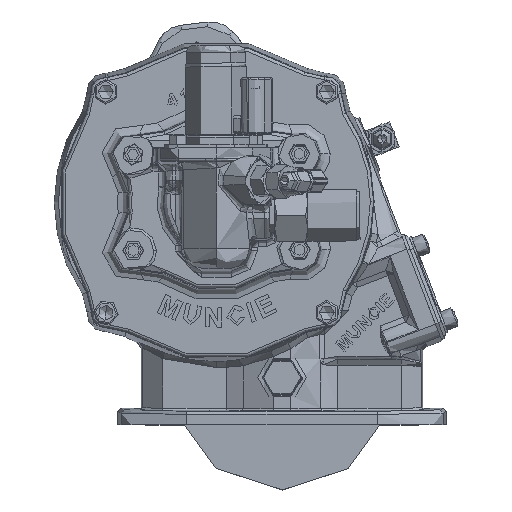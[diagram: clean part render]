
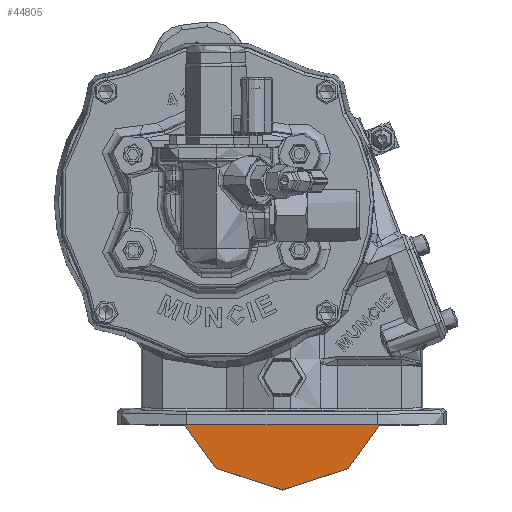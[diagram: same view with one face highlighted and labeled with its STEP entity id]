
A CAD part, top view. The second image highlights one B-rep face of the part: STEP entity #44805.
In plain terms, the highlighted planar face has unit normal (0, 0, 1) as drawn and (0, -1, 0) by its records, which use the part's own axes.
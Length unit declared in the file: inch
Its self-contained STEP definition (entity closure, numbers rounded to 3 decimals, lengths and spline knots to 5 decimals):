
#4716 = VERTEX_POINT ( 'NONE', #72193 ) ;
#4831 = DIRECTION ( 'NONE',  ( 0., 0., 1. ) ) ;
#5052 = AXIS2_PLACEMENT_3D ( 'NONE', #116861, #93906, #105766 ) ;
#6598 = FACE_OUTER_BOUND ( 'NONE', #52448, .T. ) ;
#11804 = AXIS2_PLACEMENT_3D ( 'NONE', #91656, #24061, #56041 ) ;
#24061 = DIRECTION ( 'NONE',  ( 0., 1., 0. ) ) ;
#28630 = EDGE_LOOP ( 'NONE', ( #37834, #36099 ) ) ;
#32270 = AXIS2_PLACEMENT_3D ( 'NONE', #94267, #37844, #51942 ) ;
#35595 = CARTESIAN_POINT ( 'NONE',  ( 0., 0., 0.3595 ) ) ;
#36099 = ORIENTED_EDGE ( 'NONE', *, *, #77864, .T. ) ;
#37834 = ORIENTED_EDGE ( 'NONE', *, *, #102016, .T. ) ;
#37844 = DIRECTION ( 'NONE',  ( 0., 1., 0. ) ) ;
#39676 = AXIS2_PLACEMENT_3D ( 'NONE', #65856, #143065, #122938 ) ;
#44805 = ADVANCED_FACE ( 'NONE', ( #71994, #6598 ), #62323, .F. ) ;
#51942 = DIRECTION ( 'NONE',  ( 0., 0., 1. ) ) ;
#52448 = EDGE_LOOP ( 'NONE', ( #61170, #54970 ) ) ;
#54970 = ORIENTED_EDGE ( 'NONE', *, *, #124185, .F. ) ;
#56041 = DIRECTION ( 'NONE',  ( 0., 0., 1. ) ) ;
#61170 = ORIENTED_EDGE ( 'NONE', *, *, #131223, .F. ) ;
#62323 = PLANE ( 'NONE',  #32270 ) ;
#63364 = CARTESIAN_POINT ( 'NONE',  ( 0., 0., -2.135 ) ) ;
#65759 = CIRCLE ( 'NONE', #39676, 0.3595 ) ;
#65856 = CARTESIAN_POINT ( 'NONE',  ( 0., 0., 0. ) ) ;
#70876 = AXIS2_PLACEMENT_3D ( 'NONE', #72434, #117676, #4831 ) ;
#71994 = FACE_BOUND ( 'NONE', #28630, .T. ) ;
#72193 = CARTESIAN_POINT ( 'NONE',  ( 0., 0., 2.135 ) ) ;
#72434 = CARTESIAN_POINT ( 'NONE',  ( 0., 0., 0. ) ) ;
#77864 = EDGE_CURVE ( 'NONE', #107190, #97131, #65759, .T. ) ;
#85642 = CIRCLE ( 'NONE', #5052, 0.3595 ) ;
#91656 = CARTESIAN_POINT ( 'NONE',  ( 0., 0., 0. ) ) ;
#93906 = DIRECTION ( 'NONE',  ( 0., 1., 0. ) ) ;
#94267 = CARTESIAN_POINT ( 'NONE',  ( 0., 0., 0. ) ) ;
#97131 = VERTEX_POINT ( 'NONE', #35595 ) ;
#102016 = EDGE_CURVE ( 'NONE', #97131, #107190, #85642, .T. ) ;
#105766 = DIRECTION ( 'NONE',  ( 0., 0., 1. ) ) ;
#106380 = CIRCLE ( 'NONE', #70876, 2.135 ) ;
#107083 = CARTESIAN_POINT ( 'NONE',  ( 0., 0., -0.3595 ) ) ;
#107190 = VERTEX_POINT ( 'NONE', #107083 ) ;
#116861 = CARTESIAN_POINT ( 'NONE',  ( 0., 0., 0. ) ) ;
#117676 = DIRECTION ( 'NONE',  ( 0., 1., 0. ) ) ;
#122938 = DIRECTION ( 'NONE',  ( 0., 0., 1. ) ) ;
#124185 = EDGE_CURVE ( 'NONE', #4716, #128121, #106380, .T. ) ;
#128121 = VERTEX_POINT ( 'NONE', #63364 ) ;
#131223 = EDGE_CURVE ( 'NONE', #128121, #4716, #146911, .T. ) ;
#143065 = DIRECTION ( 'NONE',  ( 0., 1., 0. ) ) ;
#146911 = CIRCLE ( 'NONE', #11804, 2.135 ) ;
